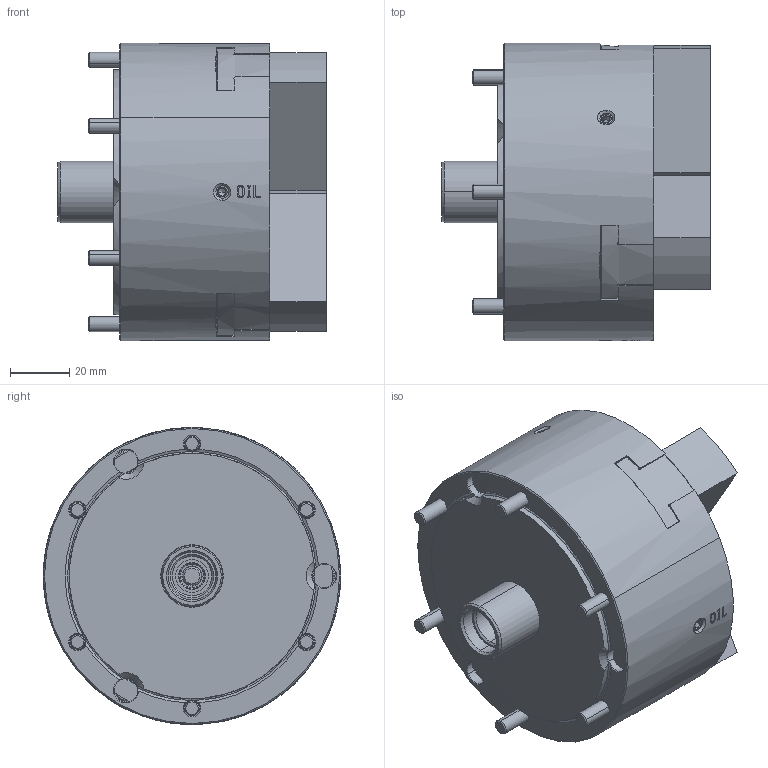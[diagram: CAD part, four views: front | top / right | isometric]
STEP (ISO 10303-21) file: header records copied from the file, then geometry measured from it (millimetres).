
FILE_DESCRIPTION (( 'STEP AP214' ), '1' );
FILE_NAME ('DEV-KPC43C048-OUTSIDE_VIEW_OC.STEP', '2023-12-21T05:12:17', ( '' ), ( '' ), 'SwSTEP 2.0', 'SolidWorks 2022', '' );
FILE_SCHEMA (( 'AUTOMOTIVE_DESIGN' ));
Length unit declared in the file: millimetre
Products named in the file (7): DEV-KPC43C048-OUTSIDE_VIEW_OC; Copy of 0284210012^DEV-KPC43C048-クミタテ; Copy of 0030105055^DEV-KPC43C048-クミタテ; Copy of 61P306265^DEV-KPC43C048-クミタテ; Copy of 61P418231^DEV-KPC43C048-クミタテ; Copy of 0030105016^DEV-KPC43C048-クミタテ; Part14^DEV-KPC43C048-クミタテ
Assembly tree (26 placements, depth 2):
  DEV-KPC43C048-OUTSIDE_VIEW_OC
    Copy of 61P306265^DEV-KPC43C048-クミタテ  x3
    Copy of 61P418231^DEV-KPC43C048-クミタテ
    Copy of 0030105055^DEV-KPC43C048-クミタテ  x6
    Copy of 0030105016^DEV-KPC43C048-クミタテ  x6
    Copy of 0284210012^DEV-KPC43C048-クミタテ  x9
    Part14^DEV-KPC43C048-クミタテ
Bounding box: 90.3 x 100 x 100 mm (x, y, z)
Volume: 449500.8 mm3; surface area: 76496.1 mm2
Topology: 28 solids, 31 shells, 1789 faces, 4466 edges, 2816 vertices
Faces by surface type: plane 784, cone 431, cylinder 362, bspline 180, torus 32
Entity records: 50589 total; most frequent: CARTESIAN_POINT 16464, ORIENTED_EDGE 7264, DIRECTION 6427, EDGE_CURVE 3632, VERTEX_POINT 2328, AXIS2_PLACEMENT_3D 2163, LINE 2101, VECTOR 2101
